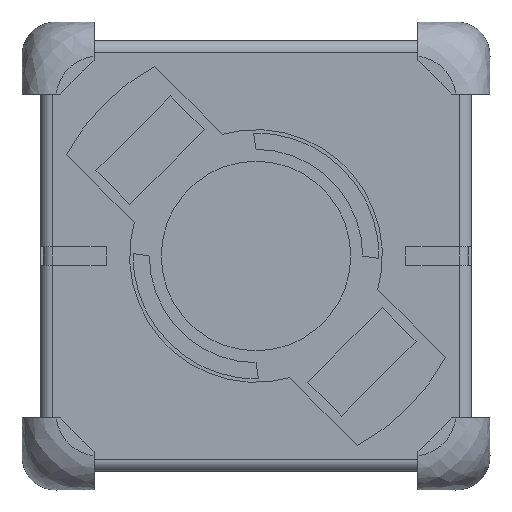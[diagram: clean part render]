
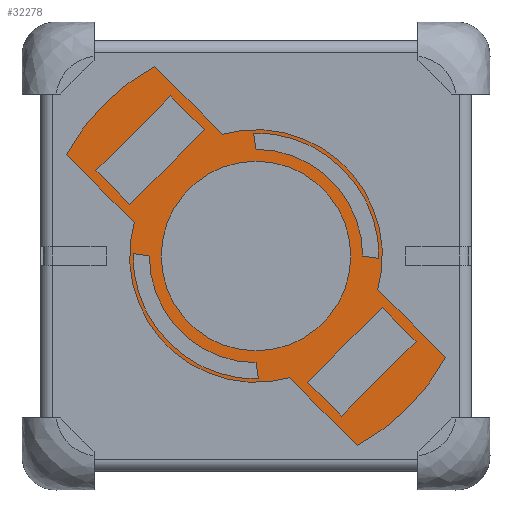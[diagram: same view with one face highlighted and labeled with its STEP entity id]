
A CAD part, front view. The second image highlights one B-rep face of the part: STEP entity #32278.
In plain terms, the highlighted planar face has unit normal (0, -1, 0).
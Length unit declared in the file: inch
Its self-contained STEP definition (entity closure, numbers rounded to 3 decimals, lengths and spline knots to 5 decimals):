
#6403=CARTESIAN_POINT('',(0.,-5.69,0.));
#6404=DIRECTION('',(0.,-1.,0.));
#6405=DIRECTION('',(-0.964,0.,0.266));
#6406=AXIS2_PLACEMENT_3D('',#6403,#6404,#6405);
#6408=DIRECTION('',(0.707,0.,-0.707));
#6409=VECTOR('',#6408,2.5575);
#6410=CARTESIAN_POINT('',(-5.06162,-5.69,2.70695));
#6411=LINE('2508',#6410,#6409);
#6412=CARTESIAN_POINT('',(0.,-5.69,0.));
#6413=DIRECTION('',(0.,-1.,0.));
#6414=DIRECTION('',(-0.472,0.,0.882));
#6415=AXIS2_PLACEMENT_3D('',#6412,#6413,#6414);
#6417=DIRECTION('',(-0.707,0.,0.707));
#6418=VECTOR('',#6417,2.5575);
#6419=CARTESIAN_POINT('',(-0.89853,-5.69,3.25319));
#6420=LINE('2506',#6419,#6418);
#6421=CARTESIAN_POINT('',(0.,-5.69,0.));
#6422=DIRECTION('',(0.,-1.,0.));
#6423=DIRECTION('',(0.964,0.,-0.266));
#6424=AXIS2_PLACEMENT_3D('',#6421,#6422,#6423);
#6426=DIRECTION('',(-0.707,0.,0.707));
#6427=VECTOR('',#6426,2.5575);
#6428=CARTESIAN_POINT('',(5.06162,-5.69,-2.70695));
#6429=LINE('2504',#6428,#6427);
#6430=CARTESIAN_POINT('',(0.,-5.69,0.));
#6431=DIRECTION('',(0.,-1.,0.));
#6432=DIRECTION('',(0.472,0.,-0.882));
#6433=AXIS2_PLACEMENT_3D('',#6430,#6431,#6432);
#6435=DIRECTION('',(0.707,0.,-0.707));
#6436=VECTOR('',#6435,2.5575);
#6437=CARTESIAN_POINT('',(0.89853,-5.69,-3.25319));
#6438=LINE('2502',#6437,#6436);
#6439=DIRECTION('',(0.99,0.,-0.139));
#6440=VECTOR('',#6439,0.4387);
#6441=CARTESIAN_POINT('',(2.85,-5.69,0.));
#6442=LINE('2773',#6441,#6440);
#6443=CARTESIAN_POINT('',(0.,-5.69,0.));
#6444=DIRECTION('',(0.,-1.,0.));
#6445=DIRECTION('',(1.,0.,-0.019));
#6446=AXIS2_PLACEMENT_3D('',#6443,#6444,#6445);
#6448=DIRECTION('',(0.139,0.,-0.99));
#6449=VECTOR('',#6448,0.4387);
#6450=CARTESIAN_POINT('',(-0.06106,-5.69,3.28443));
#6451=LINE('2775',#6450,#6449);
#6452=CARTESIAN_POINT('',(0.,-5.69,0.));
#6453=DIRECTION('',(0.,-1.,0.));
#6454=DIRECTION('',(1.,0.,0.));
#6455=AXIS2_PLACEMENT_3D('',#6452,#6453,#6454);
#6457=DIRECTION('',(-0.99,0.,0.139));
#6458=VECTOR('',#6457,0.4387);
#6459=CARTESIAN_POINT('',(-2.85,-5.69,0.));
#6460=LINE('2842',#6459,#6458);
#6461=CARTESIAN_POINT('',(0.,-5.69,0.));
#6462=DIRECTION('',(0.,-1.,0.));
#6463=DIRECTION('',(-1.,0.,0.019));
#6464=AXIS2_PLACEMENT_3D('',#6461,#6462,#6463);
#6466=DIRECTION('',(-0.139,0.,0.99));
#6467=VECTOR('',#6466,0.4387);
#6468=CARTESIAN_POINT('',(0.06106,-5.69,-3.28443));
#6469=LINE('2844',#6468,#6467);
#6470=CARTESIAN_POINT('',(0.,-5.69,0.));
#6471=DIRECTION('',(0.,-1.,0.));
#6472=DIRECTION('',(-1.,0.,0.));
#6473=AXIS2_PLACEMENT_3D('',#6470,#6471,#6472);
#6475=CARTESIAN_POINT('',(0.,-5.69,0.));
#6476=DIRECTION('',(0.,-1.,0.));
#6477=DIRECTION('',(-1.,0.,0.));
#6478=AXIS2_PLACEMENT_3D('',#6475,#6476,#6477);
#6484=CARTESIAN_POINT('',(0.,-5.69,0.));
#6485=DIRECTION('',(0.,-1.,0.));
#6486=DIRECTION('',(1.,0.,0.));
#6487=AXIS2_PLACEMENT_3D('',#6484,#6485,#6486);
#6535=DIRECTION('',(-0.707,0.,0.707));
#6536=VECTOR('',#6535,1.28);
#6537=CARTESIAN_POINT('',(4.27446,-5.69,-2.28749));
#6538=LINE('2519',#6537,#6536);
#6543=DIRECTION('',(0.707,0.,0.707));
#6544=VECTOR('',#6543,2.81);
#6545=CARTESIAN_POINT('',(2.28749,-5.69,-4.27446));
#6546=LINE('2522',#6545,#6544);
#6551=DIRECTION('',(0.707,0.,-0.707));
#6552=VECTOR('',#6551,1.28);
#6553=CARTESIAN_POINT('',(1.38239,-5.69,-3.36936));
#6554=LINE('2521',#6553,#6552);
#6559=DIRECTION('',(-0.707,0.,-0.707));
#6560=VECTOR('',#6559,2.81);
#6561=CARTESIAN_POINT('',(3.36936,-5.69,-1.38239));
#6562=LINE('2520',#6561,#6560);
#6567=DIRECTION('',(-0.707,0.,-0.707));
#6568=VECTOR('',#6567,2.81);
#6569=CARTESIAN_POINT('',(-2.28749,-5.69,4.27446));
#6570=LINE('2523',#6569,#6568);
#6575=DIRECTION('',(-0.707,0.,0.707));
#6576=VECTOR('',#6575,1.28);
#6577=CARTESIAN_POINT('',(-1.38239,-5.69,3.36936));
#6578=LINE('2526',#6577,#6576);
#6583=DIRECTION('',(0.707,0.,0.707));
#6584=VECTOR('',#6583,2.81);
#6585=CARTESIAN_POINT('',(-3.36936,-5.69,1.38239));
#6586=LINE('2525',#6585,#6584);
#6591=DIRECTION('',(0.707,0.,-0.707));
#6592=VECTOR('',#6591,1.28);
#6593=CARTESIAN_POINT('',(-4.27446,-5.69,2.28749));
#6594=LINE('2524',#6593,#6592);
#19835=CARTESIAN_POINT('',(-3.25319,-5.69,0.89853));
#19836=CARTESIAN_POINT('',(0.89853,-5.69,-3.25319));
#19837=VERTEX_POINT('',#19835);
#19838=VERTEX_POINT('',#19836);
#19839=CARTESIAN_POINT('',(2.70695,-5.69,-5.06162));
#19840=VERTEX_POINT('',#19839);
#19841=CARTESIAN_POINT('',(5.06162,-5.69,-2.70695));
#19842=VERTEX_POINT('',#19841);
#19843=CARTESIAN_POINT('',(3.25319,-5.69,-0.89853));
#19844=VERTEX_POINT('',#19843);
#19845=CARTESIAN_POINT('',(-0.89853,-5.69,3.25319));
#19846=VERTEX_POINT('',#19845);
#19847=CARTESIAN_POINT('',(-2.70695,-5.69,5.06162));
#19848=VERTEX_POINT('',#19847);
#19849=CARTESIAN_POINT('',(-5.06162,-5.69,2.70695));
#19850=VERTEX_POINT('',#19849);
#19867=CARTESIAN_POINT('',(-2.53,-5.69,0.));
#19868=CARTESIAN_POINT('',(2.53,-5.69,0.));
#19869=VERTEX_POINT('',#19867);
#19870=VERTEX_POINT('',#19868);
#19871=CARTESIAN_POINT('',(4.27446,-5.69,-2.28749));
#19872=CARTESIAN_POINT('',(3.36936,-5.69,-1.38239));
#19873=VERTEX_POINT('',#19871);
#19874=VERTEX_POINT('',#19872);
#19875=CARTESIAN_POINT('',(1.38239,-5.69,-3.36936));
#19876=VERTEX_POINT('',#19875);
#19877=CARTESIAN_POINT('',(2.28749,-5.69,-4.27446));
#19878=VERTEX_POINT('',#19877);
#19879=CARTESIAN_POINT('',(-2.28749,-5.69,4.27446));
#19880=CARTESIAN_POINT('',(-4.27446,-5.69,2.28749));
#19881=VERTEX_POINT('',#19879);
#19882=VERTEX_POINT('',#19880);
#19883=CARTESIAN_POINT('',(-3.36936,-5.69,1.38239));
#19884=VERTEX_POINT('',#19883);
#19885=CARTESIAN_POINT('',(-1.38239,-5.69,3.36936));
#19886=VERTEX_POINT('',#19885);
#20055=CARTESIAN_POINT('',(2.85,-5.69,0.));
#20056=VERTEX_POINT('',#20055);
#20057=CARTESIAN_POINT('',(3.28443,-5.69,-0.06106));
#20058=VERTEX_POINT('',#20057);
#20059=CARTESIAN_POINT('',(-0.06106,-5.69,3.28443));
#20060=VERTEX_POINT('',#20059);
#20061=CARTESIAN_POINT('',(0.,-5.69,2.85));
#20062=VERTEX_POINT('',#20061);
#20103=CARTESIAN_POINT('',(-2.85,-5.69,0.));
#20104=VERTEX_POINT('',#20103);
#20105=CARTESIAN_POINT('',(-3.28443,-5.69,0.06106));
#20106=VERTEX_POINT('',#20105);
#20107=CARTESIAN_POINT('',(0.06106,-5.69,-3.28443));
#20108=VERTEX_POINT('',#20107);
#20109=CARTESIAN_POINT('',(0.,-5.69,-2.85));
#20110=VERTEX_POINT('',#20109);
#32217=CARTESIAN_POINT('',(0.,-5.69,0.));
#32218=DIRECTION('',(0.,-1.,0.));
#32219=DIRECTION('',(-1.,0.,0.));
#32220=AXIS2_PLACEMENT_3D('',#32217,#32218,#32219);
#32221=PLANE('2492',#32220);
#32222=ORIENTED_EDGE('2501',*,*,#32113,.F.);
#32223=ORIENTED_EDGE('2508',*,*,#32128,.F.);
#32224=ORIENTED_EDGE('2507',*,*,#32142,.F.);
#32225=ORIENTED_EDGE('2506',*,*,#32156,.F.);
#32226=ORIENTED_EDGE('2505',*,*,#32170,.F.);
#32227=ORIENTED_EDGE('2504',*,*,#32184,.F.);
#32228=ORIENTED_EDGE('2503',*,*,#32198,.F.);
#32229=ORIENTED_EDGE('2502',*,*,#32211,.F.);
#32230=EDGE_LOOP('2492',(#32222,#32223,#32224,#32225,#32226,#32227,#32228,
#32229));
#32231=FACE_OUTER_BOUND('2492',#32230,.F.);
#32233=ORIENTED_EDGE('2517',*,*,#32232,.T.);
#32235=ORIENTED_EDGE('2518',*,*,#32234,.T.);
#32236=EDGE_LOOP('2492',(#32233,#32235));
#32237=FACE_BOUND('2492',#32236,.F.);
#32239=ORIENTED_EDGE('2519',*,*,#32238,.T.);
#32241=ORIENTED_EDGE('2520',*,*,#32240,.T.);
#32243=ORIENTED_EDGE('2521',*,*,#32242,.T.);
#32245=ORIENTED_EDGE('2522',*,*,#32244,.T.);
#32246=EDGE_LOOP('2492',(#32239,#32241,#32243,#32245));
#32247=FACE_BOUND('2492',#32246,.F.);
#32249=ORIENTED_EDGE('2523',*,*,#32248,.T.);
#32251=ORIENTED_EDGE('2524',*,*,#32250,.T.);
#32253=ORIENTED_EDGE('2525',*,*,#32252,.T.);
#32255=ORIENTED_EDGE('2526',*,*,#32254,.T.);
#32256=EDGE_LOOP('2492',(#32249,#32251,#32253,#32255));
#32257=FACE_BOUND('2492',#32256,.F.);
#32259=ORIENTED_EDGE('2773',*,*,#32258,.T.);
#32261=ORIENTED_EDGE('2774',*,*,#32260,.T.);
#32263=ORIENTED_EDGE('2775',*,*,#32262,.T.);
#32265=ORIENTED_EDGE('2776',*,*,#32264,.F.);
#32266=EDGE_LOOP('2492',(#32259,#32261,#32263,#32265));
#32267=FACE_BOUND('2492',#32266,.F.);
#32269=ORIENTED_EDGE('2842',*,*,#32268,.T.);
#32271=ORIENTED_EDGE('2843',*,*,#32270,.T.);
#32273=ORIENTED_EDGE('2844',*,*,#32272,.T.);
#32275=ORIENTED_EDGE('2845',*,*,#32274,.F.);
#32276=EDGE_LOOP('2492',(#32269,#32271,#32273,#32275));
#32277=FACE_BOUND('2492',#32276,.F.);
#6407=CIRCLE('2501',#6406,3.375);
#6416=CIRCLE('2507',#6415,5.74);
#6425=CIRCLE('2505',#6424,3.375);
#6434=CIRCLE('2503',#6433,5.74);
#6447=CIRCLE('2774',#6446,3.285);
#6456=CIRCLE('2776',#6455,2.85);
#6465=CIRCLE('2843',#6464,3.285);
#6474=CIRCLE('2845',#6473,2.85);
#6479=CIRCLE('2517',#6478,2.53);
#6488=CIRCLE('2518',#6487,2.53);
#32113=EDGE_CURVE('2501',#19837,#19838,#6407,.T.);
#32128=EDGE_CURVE('2508',#19850,#19837,#6411,.T.);
#32142=EDGE_CURVE('2507',#19848,#19850,#6416,.T.);
#32156=EDGE_CURVE('2506',#19846,#19848,#6420,.T.);
#32170=EDGE_CURVE('2505',#19844,#19846,#6425,.T.);
#32184=EDGE_CURVE('2504',#19842,#19844,#6429,.T.);
#32198=EDGE_CURVE('2503',#19840,#19842,#6434,.T.);
#32211=EDGE_CURVE('2502',#19838,#19840,#6438,.T.);
#32232=EDGE_CURVE('2517',#19869,#19870,#6479,.T.);
#32234=EDGE_CURVE('2518',#19870,#19869,#6488,.T.);
#32238=EDGE_CURVE('2519',#19873,#19874,#6538,.T.);
#32240=EDGE_CURVE('2520',#19874,#19876,#6562,.T.);
#32242=EDGE_CURVE('2521',#19876,#19878,#6554,.T.);
#32244=EDGE_CURVE('2522',#19878,#19873,#6546,.T.);
#32248=EDGE_CURVE('2523',#19881,#19882,#6570,.T.);
#32250=EDGE_CURVE('2524',#19882,#19884,#6594,.T.);
#32252=EDGE_CURVE('2525',#19884,#19886,#6586,.T.);
#32254=EDGE_CURVE('2526',#19886,#19881,#6578,.T.);
#32258=EDGE_CURVE('2773',#20056,#20058,#6442,.T.);
#32260=EDGE_CURVE('2774',#20058,#20060,#6447,.T.);
#32262=EDGE_CURVE('2775',#20060,#20062,#6451,.T.);
#32264=EDGE_CURVE('2776',#20056,#20062,#6456,.T.);
#32268=EDGE_CURVE('2842',#20104,#20106,#6460,.T.);
#32270=EDGE_CURVE('2843',#20106,#20108,#6465,.T.);
#32272=EDGE_CURVE('2844',#20108,#20110,#6469,.T.);
#32274=EDGE_CURVE('2845',#20104,#20110,#6474,.T.);
#32278=ADVANCED_FACE('2492',(#32231,#32237,#32247,#32257,#32267,#32277),#32221,
.T.);
